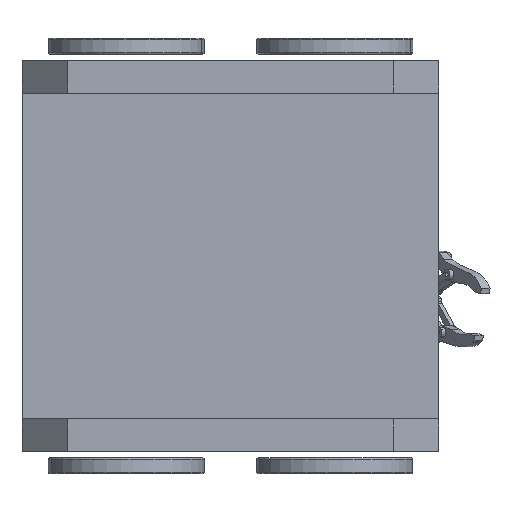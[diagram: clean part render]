
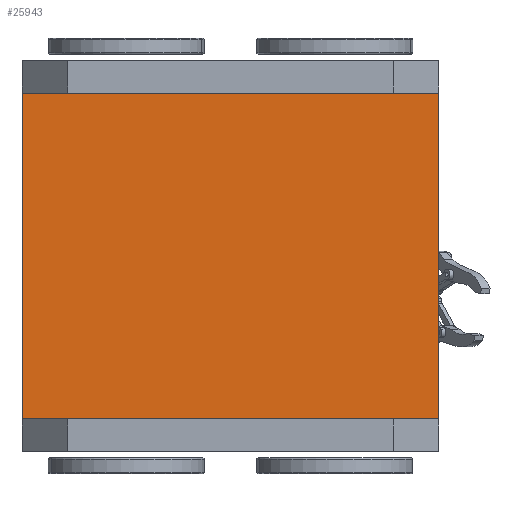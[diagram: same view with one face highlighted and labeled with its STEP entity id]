
A CAD part, front view. The second image highlights one B-rep face of the part: STEP entity #25943.
In plain terms, the highlighted planar face has unit normal (0, -1, 0) as drawn and (0, 0, -1) by its records, which use the part's own axes.
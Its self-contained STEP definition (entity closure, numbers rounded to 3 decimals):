
#25592=DIRECTION('',(0.,1.,0.));
#25593=VECTOR('',#25592,320.);
#25594=CARTESIAN_POINT('',(275.,0.,0.));
#25595=LINE('',#25594,#25593);
#25596=DIRECTION('',(-1.,0.,0.));
#25597=VECTOR('',#25596,250.);
#25598=CARTESIAN_POINT('',(275.,320.,0.));
#25599=LINE('',#25598,#25597);
#25600=DIRECTION('',(0.,1.,0.));
#25601=VECTOR('',#25600,320.);
#25602=CARTESIAN_POINT('',(25.,0.,0.));
#25603=LINE('',#25602,#25601);
#25604=DIRECTION('',(1.,0.,0.));
#25605=VECTOR('',#25604,250.);
#25606=CARTESIAN_POINT('',(25.,0.,0.));
#25607=LINE('',#25606,#25605);
#25856=CARTESIAN_POINT('',(275.,0.,0.));
#25857=CARTESIAN_POINT('',(275.,320.,0.));
#25858=VERTEX_POINT('',#25856);
#25859=VERTEX_POINT('',#25857);
#25860=CARTESIAN_POINT('',(25.,0.,0.));
#25861=CARTESIAN_POINT('',(25.,320.,0.));
#25862=VERTEX_POINT('',#25860);
#25863=VERTEX_POINT('',#25861);
#25928=CARTESIAN_POINT('',(0.,0.,0.));
#25929=DIRECTION('',(0.,0.,1.));
#25930=DIRECTION('',(1.,0.,0.));
#25931=AXIS2_PLACEMENT_3D('',#25928,#25929,#25930);
#25932=PLANE('',#25931);
#25934=ORIENTED_EDGE('',*,*,#25933,.T.);
#25936=ORIENTED_EDGE('',*,*,#25935,.T.);
#25938=ORIENTED_EDGE('',*,*,#25937,.F.);
#25940=ORIENTED_EDGE('',*,*,#25939,.T.);
#25941=EDGE_LOOP('',(#25934,#25936,#25938,#25940));
#25942=FACE_OUTER_BOUND('',#25941,.F.);
#25943=ADVANCED_FACE('',(#25942),#25932,.F.);
#25933=EDGE_CURVE('',#25858,#25859,#25595,.T.);
#25935=EDGE_CURVE('',#25859,#25863,#25599,.T.);
#25937=EDGE_CURVE('',#25862,#25863,#25603,.T.);
#25939=EDGE_CURVE('',#25862,#25858,#25607,.T.);
